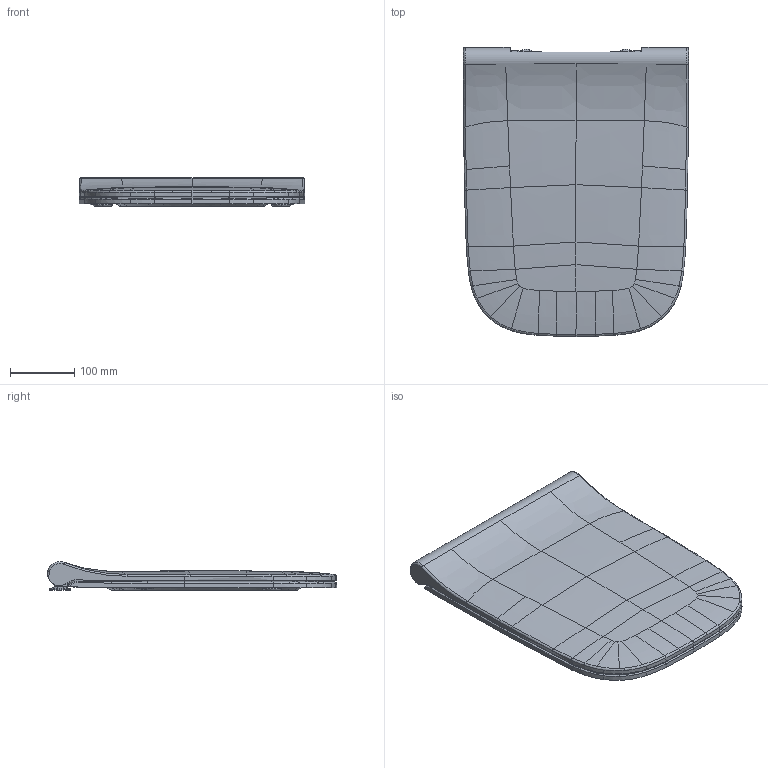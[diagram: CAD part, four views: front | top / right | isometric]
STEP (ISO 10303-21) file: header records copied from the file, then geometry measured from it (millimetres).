
FILE_DESCRIPTION(/* description */ (''),/* implementation_level */ '2;1');
FILE_NAME(/* name */ 'C:\Planerdaten\Export PLA\500.239.01.1\stp\500688.stp',/* time_stamp */ '2020-04-30T09:16:59+02:00',/* author */ ('JANAN'),/* organization */ (''),/* preprocessor_version */ 'ST-DEVELOPER v16.13',/* originating_system */ 'Autodesk Inventor 2018',/* authorisation */ '');
FILE_SCHEMA (('AUTOMOTIVE_DESIGN { 1 0 10303 214 3 1 1 }'));
Products named in the file (1): WC-Sitz Ge+SmyS Bef-o AbsA QRel Sdw-Form
Bounding box: 352.03 x 450.77 x 44.76 mm (x, y, z)
Volume: 1481142.9 mm3; surface area: 535674.7 mm2
Topology: 1 solids, 1 shells, 789 faces, 1961 edges, 1172 vertices
Faces by surface type: bspline 643, plane 74, cylinder 38, cone 14, sphere 12, torus 8
Full cylindrical faces by diameter (mm): 6.1 x2, 6.3 x2, 11 x2, 16 x2, 25.5 x2, 30 x6, 32 x2, 33 x2
Entity records: 71214 total; most frequent: CARTESIAN_POINT 56117, ORIENTED_EDGE 3794, EDGE_CURVE 1897, DIRECTION 1457, B_SPLINE_CURVE_WITH_KNOTS 1204, VERTEX_POINT 1156, EDGE_LOOP 843, STYLED_ITEM 790
